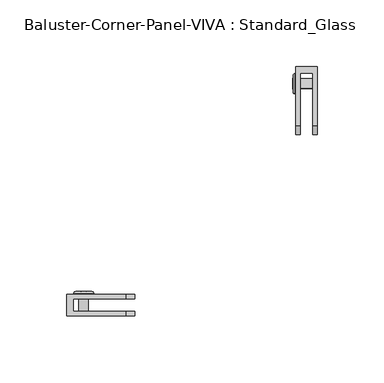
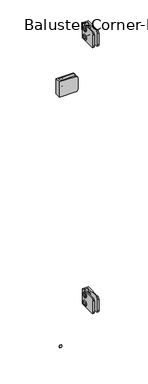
"""IFC4 building model written with IfcOpenShell, lengths in millimetres: railing geometry, Baluster-Corner-Panel-VIVA : Standard_Glass."""

from ifc_helpers import new_model, si_unit, point, frame, origin, place, context, project, spatial, polyline, circle_curve, ellipse_curve, trimmed, outline, extrude, source, transform, mapped, element, save
from ifc_brep_helpers import plane_surface, cylinder_surface, revolved_surface, advanced_brep


def baluster_corner_panel_viva_standard_glass_8e7ea86a(model_context):
    return source(origin(), model_context, "Body", "SolidModel", [
        extrude(outline(polyline([(137.9862695, 917.178125), (135.9393053, 913.6326791), (131.845377, 913.6326791), (129.7984129, 917.178125), (131.845377, 920.7235709), (135.9393053, 920.7235709), (137.9862695, 917.178125)])), frame((21.7024185, 0.0, 0.0), z_axis=(1.0, 0.0, 0.0), x_axis=(0.0, 1.0, 0.0)), (0.0, 0.0, 1.0), 1.4969696),
        advanced_brep(
        [(36.7665, 137.4377871, 917.178125), (36.7665, 130.3468953, 917.178125), (24.0665, 130.3468953, 917.178125), (24.0665, 137.4377871, 917.178125), (24.0665, 126.4845521, 917.178125), (24.0665, 141.3001303, 917.178125), (23.199388, 135.5484166, 917.178125), (23.199388, 132.2362658, 917.178125), (36.7665, 132.2362658, 917.178125), (36.7665, 135.5484166, 917.178125), (23.2316551, 141.3001303, 917.178125), (23.2316551, 126.4845521, 917.178125), (21.9503831, 127.7658241, 917.178125), (21.9503831, 140.0188582, 917.178125), (21.9503831, 129.5937456, 917.178125), (21.9503831, 138.1909367, 917.178125), (23.199388, 129.5937456, 917.178125), (23.199388, 138.1909367, 917.178125)],
        [
            (0, 1, circle_curve(frame((36.7665, 133.8923412, 917.178125), z_axis=(-1.0, 0.0, 0.0), x_axis=(0.0, -1.0, 0.0)), 3.5454459)),
            (1, 2),
            (2, 3, circle_curve(frame((24.0665, 133.8923412, 917.178125), z_axis=(1.0, 0.0, 0.0), x_axis=(0.0, -1.0, 0.0)), 3.5454459)),
            (3, 0),
            (1, 0, circle_curve(frame((36.7665, 133.8923412, 917.178125), z_axis=(-1.0, 0.0, 0.0), x_axis=(0.0, -1.0, 0.0)), 3.5454459)),
            (3, 2, circle_curve(frame((24.0665, 133.8923412, 917.178125), z_axis=(1.0, 0.0, 0.0), x_axis=(0.0, -1.0, 0.0)), 3.5454459)),
            (2, 4),
            (4, 5, circle_curve(frame((24.0665, 133.8923412, 917.178125), z_axis=(1.0, 0.0, 0.0), x_axis=(0.0, -1.0, 0.0)), 7.4077891)),
            (5, 3),
            (5, 4, circle_curve(frame((24.0665, 133.8923412, 917.178125), z_axis=(1.0, 0.0, 0.0), x_axis=(0.0, -1.0, 0.0)), 7.4077891)),
            (6, 7, circle_curve(frame((23.199388, 133.8923412, 917.178125), z_axis=(-1.0, 0.0, 0.0), x_axis=(0.0, -1.0, 0.0)), 1.6560754)),
            (7, 8),
            (8, 9, circle_curve(frame((36.7665, 133.8923412, 917.178125), z_axis=(1.0, 0.0, 0.0), x_axis=(0.0, -1.0, 0.0)), 1.6560754)),
            (9, 6),
            (7, 6, circle_curve(frame((23.199388, 133.8923412, 917.178125), z_axis=(-1.0, 0.0, 0.0), x_axis=(0.0, -1.0, 0.0)), 1.6560754)),
            (9, 8, circle_curve(frame((36.7665, 133.8923412, 917.178125), z_axis=(1.0, 0.0, 0.0), x_axis=(0.0, -1.0, 0.0)), 1.6560754)),
            (10, 11, circle_curve(frame((23.2316551, 133.8923412, 917.178125), z_axis=(-1.0, 0.0, 0.0), x_axis=(0.0, -1.0, 0.0)), 7.4077891)),
            (11, 12, circle_curve(frame((23.2316551, 127.7658241, 917.178125), z_axis=(0.0, 0.0, -1.0), x_axis=(0.0, -1.0, 0.0)), 1.281272)),
            (12, 13, circle_curve(frame((21.9503831, 133.8923412, 917.178125), z_axis=(1.0, 0.0, 0.0), x_axis=(0.0, -1.0, 0.0)), 6.1265171)),
            (13, 10, circle_curve(frame((23.2316551, 140.0188582, 917.178125), z_axis=(0.0, 0.0, -1.0), x_axis=(0.0, 1.0, 0.0)), 1.281272)),
            (11, 10, circle_curve(frame((23.2316551, 133.8923412, 917.178125), z_axis=(-1.0, 0.0, 0.0), x_axis=(0.0, -1.0, 0.0)), 7.4077891)),
            (13, 12, circle_curve(frame((21.9503831, 133.8923412, 917.178125), z_axis=(1.0, 0.0, 0.0), x_axis=(0.0, -1.0, 0.0)), 6.1265171)),
            (12, 14),
            (14, 15, circle_curve(frame((21.9503831, 133.8923412, 917.178125), z_axis=(1.0, 0.0, 0.0), x_axis=(0.0, -1.0, 0.0)), 4.2985955)),
            (15, 13),
            (15, 14, circle_curve(frame((21.9503831, 133.8923412, 917.178125), z_axis=(1.0, 0.0, 0.0), x_axis=(0.0, -1.0, 0.0)), 4.2985955)),
            (4, 11),
            (10, 5),
            (8, 1),
            (0, 9),
            (14, 16),
            (16, 17, circle_curve(frame((23.199388, 133.8923412, 917.178125), z_axis=(1.0, 0.0, 0.0), x_axis=(0.0, -1.0, 0.0)), 4.2985955)),
            (17, 15),
            (17, 16, circle_curve(frame((23.199388, 133.8923412, 917.178125), z_axis=(1.0, 0.0, 0.0), x_axis=(0.0, -1.0, 0.0)), 4.2985955)),
            (16, 7),
            (6, 17),
        ],
        [
            cylinder_surface(frame((27.5632331, 133.8923412, 917.178125), z_axis=(1.0, 0.0, 0.0), x_axis=(0.0, -1.0, 0.0)), 3.5454459),
            plane_surface(frame((24.0665, 133.8923412, 917.178125), z_axis=(1.0, 0.0, 0.0), x_axis=(0.0, -1.0, 0.0))),
            revolved_surface(polyline([(36.7665, 132.2362658, 917.178125), (23.199388, 132.2362658, 917.178125)]), (27.5632331, 133.8923412, 917.178125), (1.0, 0.0, 0.0)),
            revolved_surface(trimmed(ellipse_curve(frame((23.2316551, 127.7658241, 917.178125), z_axis=(0.0, 0.0, 1.0), x_axis=(0.0, -1.0, 0.0)), 1.281272, 1.281272), [point((21.9503831, 127.7658241, 917.178125))], [point((23.2316551, 126.4845521, 917.178125))], True, "CARTESIAN"), (27.5632331, 133.8923412, 917.178125), (1.0, 0.0, 0.0)),
            plane_surface(frame((21.9503831, 133.8923412, 917.178125), z_axis=(-1.0, 0.0, 0.0), x_axis=(0.0, -1.0, 0.0))),
            cylinder_surface(frame((27.5632331, 133.8923412, 917.178125), z_axis=(1.0, 0.0, 0.0), x_axis=(0.0, -1.0, 0.0)), 7.4077891),
            plane_surface(frame((36.7665, 133.8923412, 917.178125), z_axis=(1.0, 0.0, 0.0), x_axis=(0.0, -1.0, 0.0))),
            revolved_surface(polyline([(23.199388, 129.5937457, 917.178125), (21.9503831, 129.5937457, 917.178125)]), (27.5632331, 133.8923412, 917.178125), (1.0, 0.0, 0.0)),
            plane_surface(frame((23.199388, 133.8923412, 917.178125), z_axis=(-1.0, 0.0, 0.0), x_axis=(0.0, -1.0, 0.0))),
        ],
        [
            (0, [[1, 2, 3, 4]]),
            (0, [[5, -4, 6, -2]]),
            (1, [[-3, 7, 8, 9]]),
            (1, [[-6, -9, 10, -7]]),
            (2, [[11, 12, 13, 14]]),
            (2, [[15, -14, 16, -12]]),
            (3, [[17, 18, 19, 20]]),
            (3, [[21, -20, 22, -18]]),
            (4, [[-19, 23, 24, 25]]),
            (4, [[-22, -25, 26, -23]]),
            (5, [[-8, 27, -17, 28]]),
            (5, [[-10, -28, -21, -27]]),
            (6, [[-13, 29, -1, 30]]),
            (6, [[-16, -30, -5, -29]]),
            (7, [[-24, 31, 32, 33]]),
            (7, [[-26, -33, 34, -31]]),
            (8, [[-32, 35, -11, 36]]),
            (8, [[-34, -36, -15, -35]]),
        ],
    ),
        advanced_brep(
        [(36.7665, 137.4377871, 892.571875), (36.7665, 130.3468953, 892.571875), (24.0665, 130.3468953, 892.571875), (24.0665, 137.4377871, 892.571875), (24.0665, 126.4845521, 892.571875), (24.0665, 141.3001303, 892.571875), (23.199388, 135.5484166, 892.571875), (23.199388, 132.2362658, 892.571875), (36.7665, 132.2362658, 892.571875), (36.7665, 135.5484166, 892.571875), (23.2316551, 141.3001303, 892.571875), (23.2316551, 126.4845521, 892.571875), (21.9503831, 127.7658241, 892.571875), (21.9503831, 140.0188582, 892.571875), (21.9503831, 129.5937456, 892.571875), (21.9503831, 138.1909367, 892.571875), (23.199388, 129.5937456, 892.571875), (23.199388, 138.1909367, 892.571875)],
        [
            (0, 1, circle_curve(frame((36.7665, 133.8923412, 892.571875), z_axis=(-1.0, 0.0, 0.0), x_axis=(0.0, -1.0, 0.0)), 3.5454459)),
            (1, 2),
            (2, 3, circle_curve(frame((24.0665, 133.8923412, 892.571875), z_axis=(1.0, 0.0, 0.0), x_axis=(0.0, -1.0, 0.0)), 3.5454459)),
            (3, 0),
            (1, 0, circle_curve(frame((36.7665, 133.8923412, 892.571875), z_axis=(-1.0, 0.0, 0.0), x_axis=(0.0, -1.0, 0.0)), 3.5454459)),
            (3, 2, circle_curve(frame((24.0665, 133.8923412, 892.571875), z_axis=(1.0, 0.0, 0.0), x_axis=(0.0, -1.0, 0.0)), 3.5454459)),
            (2, 4),
            (4, 5, circle_curve(frame((24.0665, 133.8923412, 892.571875), z_axis=(1.0, 0.0, 0.0), x_axis=(0.0, -1.0, 0.0)), 7.4077891)),
            (5, 3),
            (5, 4, circle_curve(frame((24.0665, 133.8923412, 892.571875), z_axis=(1.0, 0.0, 0.0), x_axis=(0.0, -1.0, 0.0)), 7.4077891)),
            (6, 7, circle_curve(frame((23.199388, 133.8923412, 892.571875), z_axis=(-1.0, 0.0, 0.0), x_axis=(0.0, -1.0, 0.0)), 1.6560754)),
            (7, 8),
            (8, 9, circle_curve(frame((36.7665, 133.8923412, 892.571875), z_axis=(1.0, 0.0, 0.0), x_axis=(0.0, -1.0, 0.0)), 1.6560754)),
            (9, 6),
            (7, 6, circle_curve(frame((23.199388, 133.8923412, 892.571875), z_axis=(-1.0, 0.0, 0.0), x_axis=(0.0, -1.0, 0.0)), 1.6560754)),
            (9, 8, circle_curve(frame((36.7665, 133.8923412, 892.571875), z_axis=(1.0, 0.0, 0.0), x_axis=(0.0, -1.0, 0.0)), 1.6560754)),
            (10, 11, circle_curve(frame((23.2316551, 133.8923412, 892.571875), z_axis=(-1.0, 0.0, 0.0), x_axis=(0.0, -1.0, 0.0)), 7.4077891)),
            (11, 12, circle_curve(frame((23.2316551, 127.7658241, 892.571875), z_axis=(0.0, 0.0, -1.0), x_axis=(0.0, -1.0, 0.0)), 1.281272)),
            (12, 13, circle_curve(frame((21.9503831, 133.8923412, 892.571875), z_axis=(1.0, 0.0, 0.0), x_axis=(0.0, -1.0, 0.0)), 6.1265171)),
            (13, 10, circle_curve(frame((23.2316551, 140.0188582, 892.571875), z_axis=(0.0, 0.0, -1.0), x_axis=(0.0, 1.0, 0.0)), 1.281272)),
            (11, 10, circle_curve(frame((23.2316551, 133.8923412, 892.571875), z_axis=(-1.0, 0.0, 0.0), x_axis=(0.0, -1.0, 0.0)), 7.4077891)),
            (13, 12, circle_curve(frame((21.9503831, 133.8923412, 892.571875), z_axis=(1.0, 0.0, 0.0), x_axis=(0.0, -1.0, 0.0)), 6.1265171)),
            (12, 14),
            (14, 15, circle_curve(frame((21.9503831, 133.8923412, 892.571875), z_axis=(1.0, 0.0, 0.0), x_axis=(0.0, -1.0, 0.0)), 4.2985955)),
            (15, 13),
            (15, 14, circle_curve(frame((21.9503831, 133.8923412, 892.571875), z_axis=(1.0, 0.0, 0.0), x_axis=(0.0, -1.0, 0.0)), 4.2985955)),
            (8, 1),
            (0, 9),
            (4, 11),
            (10, 5),
            (14, 16),
            (16, 17, circle_curve(frame((23.199388, 133.8923412, 892.571875), z_axis=(1.0, 0.0, 0.0), x_axis=(0.0, -1.0, 0.0)), 4.2985955)),
            (17, 15),
            (17, 16, circle_curve(frame((23.199388, 133.8923412, 892.571875), z_axis=(1.0, 0.0, 0.0), x_axis=(0.0, -1.0, 0.0)), 4.2985955)),
            (16, 7),
            (6, 17),
        ],
        [
            cylinder_surface(frame((27.5632331, 133.8923412, 892.571875), z_axis=(1.0, 0.0, 0.0), x_axis=(0.0, -1.0, 0.0)), 3.5454459),
            plane_surface(frame((24.0665, 133.8923412, 892.571875), z_axis=(1.0, 0.0, 0.0), x_axis=(0.0, -1.0, 0.0))),
            revolved_surface(polyline([(36.7665, 132.2362658, 892.571875), (23.199388, 132.2362658, 892.571875)]), (27.5632331, 133.8923412, 892.571875), (1.0, 0.0, 0.0)),
            revolved_surface(trimmed(ellipse_curve(frame((23.2316551, 127.7658241, 892.571875), z_axis=(0.0, 0.0, 1.0), x_axis=(0.0, -1.0, 0.0)), 1.281272, 1.281272), [point((21.9503831, 127.7658241, 892.571875))], [point((23.2316551, 126.4845521, 892.571875))], True, "CARTESIAN"), (27.5632331, 133.8923412, 892.571875), (1.0, 0.0, 0.0)),
            plane_surface(frame((21.9503831, 133.8923412, 892.571875), z_axis=(-1.0, 0.0, 0.0), x_axis=(0.0, -1.0, 0.0))),
            plane_surface(frame((36.7665, 133.8923412, 892.571875), z_axis=(1.0, 0.0, 0.0), x_axis=(0.0, -1.0, 0.0))),
            cylinder_surface(frame((27.5632331, 133.8923412, 892.571875), z_axis=(1.0, 0.0, 0.0), x_axis=(0.0, -1.0, 0.0)), 7.4077891),
            revolved_surface(polyline([(23.199388, 129.5937457, 892.571875), (21.9503831, 129.5937457, 892.571875)]), (27.5632331, 133.8923412, 892.571875), (1.0, 0.0, 0.0)),
            plane_surface(frame((23.199388, 133.8923412, 892.571875), z_axis=(-1.0, 0.0, 0.0), x_axis=(0.0, -1.0, 0.0))),
        ],
        [
            (0, [[1, 2, 3, 4]]),
            (0, [[5, -4, 6, -2]]),
            (1, [[-3, 7, 8, 9]]),
            (1, [[-6, -9, 10, -7]]),
            (2, [[11, 12, 13, 14]]),
            (2, [[15, -14, 16, -12]]),
            (3, [[17, 18, 19, 20]]),
            (3, [[21, -20, 22, -18]]),
            (4, [[-19, 23, 24, 25]]),
            (4, [[-22, -25, 26, -23]]),
            (5, [[-13, 27, -1, 28]]),
            (5, [[-16, -28, -5, -27]]),
            (6, [[-8, 29, -17, 30]]),
            (6, [[-10, -30, -21, -29]]),
            (7, [[-24, 31, 32, 33]]),
            (7, [[-26, -33, 34, -31]]),
            (8, [[-32, 35, -11, 36]]),
            (8, [[-34, -36, -15, -35]]),
        ],
    ),
        extrude(outline(polyline([(137.9862695, 892.571875), (135.9393053, 889.0264291), (131.845377, 889.0264291), (129.7984129, 892.571875), (131.845377, 896.1173209), (135.9393053, 896.1173209), (137.9862695, 892.571875)])), frame((21.7024185, 0.0, 0.0), z_axis=(1.0, 0.0, 0.0), x_axis=(0.0, 1.0, 0.0)), (0.0, 0.0, 1.0), 1.4969696),
        advanced_brep(
        [(24.0665, 146.5256859, 927.1), (24.0665, 146.5256859, 882.65), (24.0665, 102.0756859, 882.65), (24.0665, 95.7256859, 889.0), (24.0665, 95.7256859, 920.75), (24.0665, 102.0756859, 927.1), (39.9415, 146.5256859, 927.1), (39.9415, 102.0756859, 927.1), (39.9415, 95.7256859, 920.75), (39.9415, 95.7256859, 889.0), (39.9415, 102.0756859, 882.65), (39.9415, 146.5256859, 882.65), (36.7665, 102.0756859, 882.65), (36.7665, 141.8076055, 882.65), (27.2415, 141.8076055, 882.65), (27.2415, 102.0756859, 882.65), (36.7665, 141.8076055, 927.1), (27.2415, 141.8076055, 927.1), (27.2415, 102.0756859, 927.1), (27.2415, 95.7256859, 920.75), (27.2415, 95.7256859, 889.0), (36.7665, 95.7256859, 889.0), (36.7665, 95.7256859, 920.75), (36.7665, 102.0756859, 927.1)],
        [
            (0, 1),
            (1, 2),
            (2, 3, circle_curve(frame((24.0665, 102.0756859, 889.0), z_axis=(-1.0, 0.0, 0.0), x_axis=(0.0, -1.0, 0.0)), 6.35)),
            (3, 4),
            (4, 5, circle_curve(frame((24.0665, 102.0756859, 920.75), z_axis=(-1.0, 0.0, 0.0), x_axis=(0.0, -1.0, 0.0)), 6.35)),
            (5, 0),
            (6, 7),
            (7, 8, circle_curve(frame((39.9415, 102.0756859, 920.75), z_axis=(1.0, 0.0, 0.0), x_axis=(0.0, -1.0, 0.0)), 6.35)),
            (8, 9),
            (9, 10, circle_curve(frame((39.9415, 102.0756859, 889.0), z_axis=(1.0, 0.0, 0.0), x_axis=(0.0, -1.0, 0.0)), 6.35)),
            (10, 11),
            (11, 6),
            (0, 6),
            (11, 1),
            (10, 12),
            (12, 13),
            (13, 14),
            (14, 15),
            (15, 2),
            (13, 16),
            (16, 17),
            (17, 14),
            (17, 18),
            (18, 19, circle_curve(frame((27.2415, 102.0756859, 920.75), z_axis=(1.0, 0.0, 0.0), x_axis=(0.0, -1.0, 0.0)), 6.35)),
            (19, 20),
            (20, 15, circle_curve(frame((27.2415, 102.0756859, 889.0), z_axis=(1.0, 0.0, 0.0), x_axis=(0.0, -1.0, 0.0)), 6.35)),
            (12, 21, circle_curve(frame((36.7665, 102.0756859, 889.0), z_axis=(-1.0, 0.0, 0.0), x_axis=(0.0, -1.0, 0.0)), 6.35)),
            (21, 22),
            (22, 23, circle_curve(frame((36.7665, 102.0756859, 920.75), z_axis=(-1.0, 0.0, 0.0), x_axis=(0.0, -1.0, 0.0)), 6.35)),
            (23, 16),
            (20, 3),
            (9, 21),
            (19, 4),
            (8, 22),
            (18, 5),
            (7, 23),
        ],
        [
            plane_surface(frame((24.0665, 146.5256859, 882.65), z_axis=(-1.0, 0.0, 0.0), x_axis=(0.0, 0.0, -1.0))),
            plane_surface(frame((39.9415, 146.5256859, 882.65), z_axis=(1.0, 0.0, 0.0), x_axis=(0.0, 0.0, 1.0))),
            plane_surface(frame((24.0665, 146.5256859, 927.1), z_axis=(0.0, 1.0, 0.0), x_axis=(1.0, 0.0, 0.0))),
            plane_surface(frame((24.0665, 146.5256859, 882.65), z_axis=(0.0, 0.0, -1.0), x_axis=(1.0, 0.0, 0.0))),
            plane_surface(frame((36.7665, 141.8076055, 939.8), z_axis=(0.0, -1.0, 0.0), x_axis=(0.0, 0.0, -1.0))),
            plane_surface(frame((27.2415, 141.8076055, 939.8), z_axis=(1.0, 0.0, 0.0), x_axis=(0.0, 0.0, -1.0))),
            plane_surface(frame((36.7665, 83.0256859, 939.8), z_axis=(-1.0, 0.0, 0.0), x_axis=(0.0, 0.0, -1.0))),
            cylinder_surface(frame((39.9415, 102.0756859, 889.0), z_axis=(-1.0, 0.0, 0.0), x_axis=(0.0, -1.0, 0.0)), 6.35),
            plane_surface(frame((24.0665, 95.7256859, 889.0), z_axis=(0.0, -1.0, 0.0), x_axis=(1.0, 0.0, 0.0))),
            cylinder_surface(frame((39.9415, 102.0756859, 920.75), z_axis=(-1.0, 0.0, 0.0), x_axis=(0.0, -1.0, 0.0)), 6.35),
            plane_surface(frame((24.0665, 102.0756859, 927.1), z_axis=(0.0, 0.0, 1.0), x_axis=(1.0, 0.0, 0.0))),
        ],
        [
            (0, [[1, 2, 3, 4, 5, 6]]),
            (1, [[7, 8, 9, 10, 11, 12]]),
            (2, [[-1, 13, -12, 14]]),
            (3, [[-2, -14, -11, 15, 16, 17, 18, 19]]),
            (4, [[20, 21, 22, -17]]),
            (5, [[-22, 23, 24, 25, 26, -18]]),
            (6, [[-20, -16, 27, 28, 29, 30]]),
            (7, [[-3, -19, -26, 31]]),
            (7, [[-10, 32, -27, -15]]),
            (8, [[-4, -31, -25, 33]]),
            (8, [[-9, 34, -28, -32]]),
            (9, [[-5, -33, -24, 35]]),
            (9, [[-8, 36, -29, -34]]),
            (10, [[-6, -35, -23, -21, -30, -36, -7, -13]]),
        ],
    ),
        extrude(outline(polyline([(137.9862695, 138.7358896), (135.9393053, 135.1904437), (131.845377, 135.1904437), (129.7984129, 138.7358896), (131.845377, 142.2813355), (135.9393053, 142.2813355), (137.9862695, 138.7358896)])), frame((21.7024185, 0.0, 0.0), z_axis=(1.0, 0.0, 0.0), x_axis=(0.0, 1.0, 0.0)), (0.0, 0.0, 1.0), 1.4969696),
        advanced_brep(
        [(36.7665, 137.4377871, 138.7358896), (36.7665, 130.3468953, 138.7358896), (24.0665, 130.3468953, 138.7358896), (24.0665, 137.4377871, 138.7358896), (24.0665, 126.4845521, 138.7358896), (24.0665, 141.3001303, 138.7358896), (23.199388, 135.5484166, 138.7358896), (23.199388, 132.2362658, 138.7358896), (36.7665, 132.2362658, 138.7358896), (36.7665, 135.5484166, 138.7358896), (23.2316551, 141.3001303, 138.7358896), (23.2316551, 126.4845521, 138.7358896), (21.9503831, 127.7658241, 138.7358896), (21.9503831, 140.0188582, 138.7358896), (21.9503831, 129.5937456, 138.7358896), (21.9503831, 138.1909367, 138.7358896), (23.199388, 129.5937456, 138.7358896), (23.199388, 138.1909367, 138.7358896)],
        [
            (0, 1, circle_curve(frame((36.7665, 133.8923412, 138.7358896), z_axis=(-1.0, 0.0, 0.0), x_axis=(0.0, -1.0, 0.0)), 3.5454459)),
            (1, 2),
            (2, 3, circle_curve(frame((24.0665, 133.8923412, 138.7358896), z_axis=(1.0, 0.0, 0.0), x_axis=(0.0, -1.0, 0.0)), 3.5454459)),
            (3, 0),
            (1, 0, circle_curve(frame((36.7665, 133.8923412, 138.7358896), z_axis=(-1.0, 0.0, 0.0), x_axis=(0.0, -1.0, 0.0)), 3.5454459)),
            (3, 2, circle_curve(frame((24.0665, 133.8923412, 138.7358896), z_axis=(1.0, 0.0, 0.0), x_axis=(0.0, -1.0, 0.0)), 3.5454459)),
            (2, 4),
            (4, 5, circle_curve(frame((24.0665, 133.8923412, 138.7358896), z_axis=(1.0, 0.0, 0.0), x_axis=(0.0, -1.0, 0.0)), 7.4077891)),
            (5, 3),
            (5, 4, circle_curve(frame((24.0665, 133.8923412, 138.7358896), z_axis=(1.0, 0.0, 0.0), x_axis=(0.0, -1.0, 0.0)), 7.4077891)),
            (6, 7, circle_curve(frame((23.199388, 133.8923412, 138.7358896), z_axis=(-1.0, 0.0, 0.0), x_axis=(0.0, -1.0, 0.0)), 1.6560754)),
            (7, 8),
            (8, 9, circle_curve(frame((36.7665, 133.8923412, 138.7358896), z_axis=(1.0, 0.0, 0.0), x_axis=(0.0, -1.0, 0.0)), 1.6560754)),
            (9, 6),
            (7, 6, circle_curve(frame((23.199388, 133.8923412, 138.7358896), z_axis=(-1.0, 0.0, 0.0), x_axis=(0.0, -1.0, 0.0)), 1.6560754)),
            (9, 8, circle_curve(frame((36.7665, 133.8923412, 138.7358896), z_axis=(1.0, 0.0, 0.0), x_axis=(0.0, -1.0, 0.0)), 1.6560754)),
            (10, 11, circle_curve(frame((23.2316551, 133.8923412, 138.7358896), z_axis=(-1.0, 0.0, 0.0), x_axis=(0.0, -1.0, 0.0)), 7.4077891)),
            (11, 12, circle_curve(frame((23.2316551, 127.7658241, 138.7358896), z_axis=(0.0, 0.0, -1.0), x_axis=(0.0, -1.0, 0.0)), 1.281272)),
            (12, 13, circle_curve(frame((21.9503831, 133.8923412, 138.7358896), z_axis=(1.0, 0.0, 0.0), x_axis=(0.0, -1.0, 0.0)), 6.1265171)),
            (13, 10, circle_curve(frame((23.2316551, 140.0188582, 138.7358896), z_axis=(0.0, 0.0, -1.0), x_axis=(0.0, 1.0, 0.0)), 1.281272)),
            (11, 10, circle_curve(frame((23.2316551, 133.8923412, 138.7358896), z_axis=(-1.0, 0.0, 0.0), x_axis=(0.0, -1.0, 0.0)), 7.4077891)),
            (13, 12, circle_curve(frame((21.9503831, 133.8923412, 138.7358896), z_axis=(1.0, 0.0, 0.0), x_axis=(0.0, -1.0, 0.0)), 6.1265171)),
            (12, 14),
            (14, 15, circle_curve(frame((21.9503831, 133.8923412, 138.7358896), z_axis=(1.0, 0.0, 0.0), x_axis=(0.0, -1.0, 0.0)), 4.2985955)),
            (15, 13),
            (15, 14, circle_curve(frame((21.9503831, 133.8923412, 138.7358896), z_axis=(1.0, 0.0, 0.0), x_axis=(0.0, -1.0, 0.0)), 4.2985955)),
            (4, 11),
            (10, 5),
            (8, 1),
            (0, 9),
            (14, 16),
            (16, 17, circle_curve(frame((23.199388, 133.8923412, 138.7358896), z_axis=(1.0, 0.0, 0.0), x_axis=(0.0, -1.0, 0.0)), 4.2985955)),
            (17, 15),
            (17, 16, circle_curve(frame((23.199388, 133.8923412, 138.7358896), z_axis=(1.0, 0.0, 0.0), x_axis=(0.0, -1.0, 0.0)), 4.2985955)),
            (16, 7),
            (6, 17),
        ],
        [
            cylinder_surface(frame((27.5632331, 133.8923412, 138.7358896), z_axis=(1.0, 0.0, 0.0), x_axis=(0.0, -1.0, 0.0)), 3.5454459),
            plane_surface(frame((24.0665, 133.8923412, 138.7358896), z_axis=(1.0, 0.0, 0.0), x_axis=(0.0, -1.0, 0.0))),
            revolved_surface(polyline([(36.7665, 132.2362658, 138.7358896), (23.199388, 132.2362658, 138.7358896)]), (27.5632331, 133.8923412, 138.7358896), (1.0, 0.0, 0.0)),
            revolved_surface(trimmed(ellipse_curve(frame((23.2316551, 127.7658241, 138.7358896), z_axis=(0.0, 0.0, 1.0), x_axis=(0.0, -1.0, 0.0)), 1.281272, 1.281272), [point((21.9503831, 127.7658241, 138.7358896))], [point((23.2316551, 126.4845521, 138.7358896))], True, "CARTESIAN"), (27.5632331, 133.8923412, 138.7358896), (1.0, 0.0, 0.0)),
            plane_surface(frame((21.9503831, 133.8923412, 138.7358896), z_axis=(-1.0, 0.0, 0.0), x_axis=(0.0, -1.0, 0.0))),
            cylinder_surface(frame((27.5632331, 133.8923412, 138.7358896), z_axis=(1.0, 0.0, 0.0), x_axis=(0.0, -1.0, 0.0)), 7.4077891),
            plane_surface(frame((36.7665, 133.8923412, 138.7358896), z_axis=(1.0, 0.0, 0.0), x_axis=(0.0, -1.0, 0.0))),
            revolved_surface(polyline([(23.199388, 129.5937457, 138.7358896), (21.9503831, 129.5937457, 138.7358896)]), (27.5632331, 133.8923412, 138.7358896), (1.0, 0.0, 0.0)),
            plane_surface(frame((23.199388, 133.8923412, 138.7358896), z_axis=(-1.0, 0.0, 0.0), x_axis=(0.0, -1.0, 0.0))),
        ],
        [
            (0, [[1, 2, 3, 4]]),
            (0, [[5, -4, 6, -2]]),
            (1, [[-3, 7, 8, 9]]),
            (1, [[-6, -9, 10, -7]]),
            (2, [[11, 12, 13, 14]]),
            (2, [[15, -14, 16, -12]]),
            (3, [[17, 18, 19, 20]]),
            (3, [[21, -20, 22, -18]]),
            (4, [[-19, 23, 24, 25]]),
            (4, [[-22, -25, 26, -23]]),
            (5, [[-8, 27, -17, 28]]),
            (5, [[-10, -28, -21, -27]]),
            (6, [[-13, 29, -1, 30]]),
            (6, [[-16, -30, -5, -29]]),
            (7, [[-24, 31, 32, 33]]),
            (7, [[-26, -33, 34, -31]]),
            (8, [[-32, 35, -11, 36]]),
            (8, [[-34, -36, -15, -35]]),
        ],
    ),
        advanced_brep(
        [(36.7665, 137.4377871, 114.1296396), (36.7665, 130.3468953, 114.1296396), (24.0665, 130.3468953, 114.1296396), (24.0665, 137.4377871, 114.1296396), (24.0665, 126.4845521, 114.1296396), (24.0665, 141.3001303, 114.1296396), (23.199388, 135.5484166, 114.1296396), (23.199388, 132.2362658, 114.1296396), (36.7665, 132.2362658, 114.1296396), (36.7665, 135.5484166, 114.1296396), (23.2316551, 141.3001303, 114.1296396), (23.2316551, 126.4845521, 114.1296396), (21.9503831, 127.7658241, 114.1296396), (21.9503831, 140.0188582, 114.1296396), (21.9503831, 129.5937456, 114.1296396), (21.9503831, 138.1909367, 114.1296396), (23.199388, 129.5937456, 114.1296396), (23.199388, 138.1909367, 114.1296396)],
        [
            (0, 1, circle_curve(frame((36.7665, 133.8923412, 114.1296396), z_axis=(-1.0, 0.0, 0.0), x_axis=(0.0, -1.0, 0.0)), 3.5454459)),
            (1, 2),
            (2, 3, circle_curve(frame((24.0665, 133.8923412, 114.1296396), z_axis=(1.0, 0.0, 0.0), x_axis=(0.0, -1.0, 0.0)), 3.5454459)),
            (3, 0),
            (1, 0, circle_curve(frame((36.7665, 133.8923412, 114.1296396), z_axis=(-1.0, 0.0, 0.0), x_axis=(0.0, -1.0, 0.0)), 3.5454459)),
            (3, 2, circle_curve(frame((24.0665, 133.8923412, 114.1296396), z_axis=(1.0, 0.0, 0.0), x_axis=(0.0, -1.0, 0.0)), 3.5454459)),
            (2, 4),
            (4, 5, circle_curve(frame((24.0665, 133.8923412, 114.1296396), z_axis=(1.0, 0.0, 0.0), x_axis=(0.0, -1.0, 0.0)), 7.4077891)),
            (5, 3),
            (5, 4, circle_curve(frame((24.0665, 133.8923412, 114.1296396), z_axis=(1.0, 0.0, 0.0), x_axis=(0.0, -1.0, 0.0)), 7.4077891)),
            (6, 7, circle_curve(frame((23.199388, 133.8923412, 114.1296396), z_axis=(-1.0, 0.0, 0.0), x_axis=(0.0, -1.0, 0.0)), 1.6560754)),
            (7, 8),
            (8, 9, circle_curve(frame((36.7665, 133.8923412, 114.1296396), z_axis=(1.0, 0.0, 0.0), x_axis=(0.0, -1.0, 0.0)), 1.6560754)),
            (9, 6),
            (7, 6, circle_curve(frame((23.199388, 133.8923412, 114.1296396), z_axis=(-1.0, 0.0, 0.0), x_axis=(0.0, -1.0, 0.0)), 1.6560754)),
            (9, 8, circle_curve(frame((36.7665, 133.8923412, 114.1296396), z_axis=(1.0, 0.0, 0.0), x_axis=(0.0, -1.0, 0.0)), 1.6560754)),
            (10, 11, circle_curve(frame((23.2316551, 133.8923412, 114.1296396), z_axis=(-1.0, 0.0, 0.0), x_axis=(0.0, -1.0, 0.0)), 7.4077891)),
            (11, 12, circle_curve(frame((23.2316551, 127.7658241, 114.1296396), z_axis=(0.0, 0.0, -1.0), x_axis=(0.0, -1.0, 0.0)), 1.281272)),
            (12, 13, circle_curve(frame((21.9503831, 133.8923412, 114.1296396), z_axis=(1.0, 0.0, 0.0), x_axis=(0.0, -1.0, 0.0)), 6.1265171)),
            (13, 10, circle_curve(frame((23.2316551, 140.0188582, 114.1296396), z_axis=(0.0, 0.0, -1.0), x_axis=(0.0, 1.0, 0.0)), 1.281272)),
            (11, 10, circle_curve(frame((23.2316551, 133.8923412, 114.1296396), z_axis=(-1.0, 0.0, 0.0), x_axis=(0.0, -1.0, 0.0)), 7.4077891)),
            (13, 12, circle_curve(frame((21.9503831, 133.8923412, 114.1296396), z_axis=(1.0, 0.0, 0.0), x_axis=(0.0, -1.0, 0.0)), 6.1265171)),
            (12, 14),
            (14, 15, circle_curve(frame((21.9503831, 133.8923412, 114.1296396), z_axis=(1.0, 0.0, 0.0), x_axis=(0.0, -1.0, 0.0)), 4.2985955)),
            (15, 13),
            (15, 14, circle_curve(frame((21.9503831, 133.8923412, 114.1296396), z_axis=(1.0, 0.0, 0.0), x_axis=(0.0, -1.0, 0.0)), 4.2985955)),
            (8, 1),
            (0, 9),
            (4, 11),
            (10, 5),
            (14, 16),
            (16, 17, circle_curve(frame((23.199388, 133.8923412, 114.1296396), z_axis=(1.0, 0.0, 0.0), x_axis=(0.0, -1.0, 0.0)), 4.2985955)),
            (17, 15),
            (17, 16, circle_curve(frame((23.199388, 133.8923412, 114.1296396), z_axis=(1.0, 0.0, 0.0), x_axis=(0.0, -1.0, 0.0)), 4.2985955)),
            (16, 7),
            (6, 17),
        ],
        [
            cylinder_surface(frame((27.5632331, 133.8923412, 114.1296396), z_axis=(1.0, 0.0, 0.0), x_axis=(0.0, -1.0, 0.0)), 3.5454459),
            plane_surface(frame((24.0665, 133.8923412, 114.1296396), z_axis=(1.0, 0.0, 0.0), x_axis=(0.0, -1.0, 0.0))),
            revolved_surface(polyline([(36.7665, 132.2362658, 114.1296396), (23.199388, 132.2362658, 114.1296396)]), (27.5632331, 133.8923412, 114.1296396), (1.0, 0.0, 0.0)),
            revolved_surface(trimmed(ellipse_curve(frame((23.2316551, 127.7658241, 114.1296396), z_axis=(0.0, 0.0, 1.0), x_axis=(0.0, -1.0, 0.0)), 1.281272, 1.281272), [point((21.9503831, 127.7658241, 114.1296396))], [point((23.2316551, 126.4845521, 114.1296396))], True, "CARTESIAN"), (27.5632331, 133.8923412, 114.1296396), (1.0, 0.0, 0.0)),
            plane_surface(frame((21.9503831, 133.8923412, 114.1296396), z_axis=(-1.0, 0.0, 0.0), x_axis=(0.0, -1.0, 0.0))),
            plane_surface(frame((36.7665, 133.8923412, 114.1296396), z_axis=(1.0, 0.0, 0.0), x_axis=(0.0, -1.0, 0.0))),
            cylinder_surface(frame((27.5632331, 133.8923412, 114.1296396), z_axis=(1.0, 0.0, 0.0), x_axis=(0.0, -1.0, 0.0)), 7.4077891),
            revolved_surface(polyline([(23.199388, 129.5937457, 114.1296396), (21.9503831, 129.5937457, 114.1296396)]), (27.5632331, 133.8923412, 114.1296396), (1.0, 0.0, 0.0)),
            plane_surface(frame((23.199388, 133.8923412, 114.1296396), z_axis=(-1.0, 0.0, 0.0), x_axis=(0.0, -1.0, 0.0))),
        ],
        [
            (0, [[1, 2, 3, 4]]),
            (0, [[5, -4, 6, -2]]),
            (1, [[-3, 7, 8, 9]]),
            (1, [[-6, -9, 10, -7]]),
            (2, [[11, 12, 13, 14]]),
            (2, [[15, -14, 16, -12]]),
            (3, [[17, 18, 19, 20]]),
            (3, [[21, -20, 22, -18]]),
            (4, [[-19, 23, 24, 25]]),
            (4, [[-22, -25, 26, -23]]),
            (5, [[-13, 27, -1, 28]]),
            (5, [[-16, -28, -5, -27]]),
            (6, [[-8, 29, -17, 30]]),
            (6, [[-10, -30, -21, -29]]),
            (7, [[-24, 31, 32, 33]]),
            (7, [[-26, -33, 34, -31]]),
            (8, [[-32, 35, -11, 36]]),
            (8, [[-34, -36, -15, -35]]),
        ],
    ),
        extrude(outline(polyline([(137.9862695, 114.1296396), (135.9393053, 110.5841937), (131.845377, 110.5841937), (129.7984129, 114.1296396), (131.845377, 117.6750855), (135.9393053, 117.6750855), (137.9862695, 114.1296396)])), frame((21.7024185, 0.0, 0.0), z_axis=(1.0, 0.0, 0.0), x_axis=(0.0, 1.0, 0.0)), (0.0, 0.0, 1.0), 1.4969696),
        advanced_brep(
        [(24.0665, 146.5256859, 148.6577646), (24.0665, 146.5256859, 104.2077646), (24.0665, 102.0756859, 104.2077646), (24.0665, 95.7256859, 110.5577646), (24.0665, 95.7256859, 142.3077646), (24.0665, 102.0756859, 148.6577646), (39.9415, 146.5256859, 148.6577646), (39.9415, 102.0756859, 148.6577646), (39.9415, 95.7256859, 142.3077646), (39.9415, 95.7256859, 110.5577646), (39.9415, 102.0756859, 104.2077646), (39.9415, 146.5256859, 104.2077646), (36.7665, 102.0756859, 104.2077646), (36.7665, 141.8076055, 104.2077646), (27.2415, 141.8076055, 104.2077646), (27.2415, 102.0756859, 104.2077646), (36.7665, 141.8076055, 148.6577646), (27.2415, 141.8076055, 148.6577646), (27.2415, 102.0756859, 148.6577646), (27.2415, 95.7256859, 142.3077646), (27.2415, 95.7256859, 110.5577646), (36.7665, 95.7256859, 110.5577646), (36.7665, 95.7256859, 142.3077646), (36.7665, 102.0756859, 148.6577646)],
        [
            (0, 1),
            (1, 2),
            (2, 3, circle_curve(frame((24.0665, 102.0756859, 110.5577646), z_axis=(-1.0, 0.0, 0.0), x_axis=(0.0, -1.0, 0.0)), 6.35)),
            (3, 4),
            (4, 5, circle_curve(frame((24.0665, 102.0756859, 142.3077646), z_axis=(-1.0, 0.0, 0.0), x_axis=(0.0, -1.0, 0.0)), 6.35)),
            (5, 0),
            (6, 7),
            (7, 8, circle_curve(frame((39.9415, 102.0756859, 142.3077646), z_axis=(1.0, 0.0, 0.0), x_axis=(0.0, -1.0, 0.0)), 6.35)),
            (8, 9),
            (9, 10, circle_curve(frame((39.9415, 102.0756859, 110.5577646), z_axis=(1.0, 0.0, 0.0), x_axis=(0.0, -1.0, 0.0)), 6.35)),
            (10, 11),
            (11, 6),
            (0, 6),
            (11, 1),
            (10, 12),
            (12, 13),
            (13, 14),
            (14, 15),
            (15, 2),
            (13, 16),
            (16, 17),
            (17, 14),
            (17, 18),
            (18, 19, circle_curve(frame((27.2415, 102.0756859, 142.3077646), z_axis=(1.0, 0.0, 0.0), x_axis=(0.0, -1.0, 0.0)), 6.35)),
            (19, 20),
            (20, 15, circle_curve(frame((27.2415, 102.0756859, 110.5577646), z_axis=(1.0, 0.0, 0.0), x_axis=(0.0, -1.0, 0.0)), 6.35)),
            (12, 21, circle_curve(frame((36.7665, 102.0756859, 110.5577646), z_axis=(-1.0, 0.0, 0.0), x_axis=(0.0, -1.0, 0.0)), 6.35)),
            (21, 22),
            (22, 23, circle_curve(frame((36.7665, 102.0756859, 142.3077646), z_axis=(-1.0, 0.0, 0.0), x_axis=(0.0, -1.0, 0.0)), 6.35)),
            (23, 16),
            (20, 3),
            (9, 21),
            (19, 4),
            (8, 22),
            (18, 5),
            (7, 23),
        ],
        [
            plane_surface(frame((24.0665, 146.5256859, 104.2077646), z_axis=(-1.0, 0.0, 0.0), x_axis=(0.0, 0.0, -1.0))),
            plane_surface(frame((39.9415, 146.5256859, 104.2077646), z_axis=(1.0, 0.0, 0.0), x_axis=(0.0, 0.0, 1.0))),
            plane_surface(frame((24.0665, 146.5256859, 148.6577646), z_axis=(0.0, 1.0, 0.0), x_axis=(1.0, 0.0, 0.0))),
            plane_surface(frame((24.0665, 146.5256859, 104.2077646), z_axis=(0.0, 0.0, -1.0), x_axis=(1.0, 0.0, 0.0))),
            plane_surface(frame((36.7665, 141.8076055, 161.3577646), z_axis=(0.0, -1.0, 0.0), x_axis=(0.0, 0.0, -1.0))),
            plane_surface(frame((27.2415, 141.8076055, 161.3577646), z_axis=(1.0, 0.0, 0.0), x_axis=(0.0, 0.0, -1.0))),
            plane_surface(frame((36.7665, 83.0256859, 161.3577646), z_axis=(-1.0, 0.0, 0.0), x_axis=(0.0, 0.0, -1.0))),
            cylinder_surface(frame((39.9415, 102.0756859, 110.5577646), z_axis=(-1.0, 0.0, 0.0), x_axis=(0.0, -1.0, 0.0)), 6.35),
            plane_surface(frame((24.0665, 95.7256859, 110.5577646), z_axis=(0.0, -1.0, 0.0), x_axis=(1.0, 0.0, 0.0))),
            cylinder_surface(frame((39.9415, 102.0756859, 142.3077646), z_axis=(-1.0, 0.0, 0.0), x_axis=(0.0, -1.0, 0.0)), 6.35),
            plane_surface(frame((24.0665, 102.0756859, 148.6577646), z_axis=(0.0, 0.0, 1.0), x_axis=(1.0, 0.0, 0.0))),
        ],
        [
            (0, [[1, 2, 3, 4, 5, 6]]),
            (1, [[7, 8, 9, 10, 11, 12]]),
            (2, [[-1, 13, -12, 14]]),
            (3, [[-2, -14, -11, 15, 16, 17, 18, 19]]),
            (4, [[20, 21, 22, -17]]),
            (5, [[-22, 23, 24, 25, 26, -18]]),
            (6, [[-20, -16, 27, 28, 29, 30]]),
            (7, [[-3, -19, -26, 31]]),
            (7, [[-10, 32, -27, -15]]),
            (8, [[-4, -31, -25, 33]]),
            (8, [[-9, 34, -28, -32]]),
            (9, [[-5, -33, -24, 35]]),
            (9, [[-8, 36, -29, -34]]),
            (10, [[-6, -35, -23, -21, -30, -36, -7, -13]]),
        ],
    ),
        extrude(outline(polyline([(917.178125, -138.8419447), (913.6326791, -136.7949806), (913.6326791, -132.7010523), (917.178125, -130.6540881), (920.7235709, -132.7010523), (920.7235709, -136.7949806), (917.178125, -138.8419447)])), frame((0.0, -23.199388, 0.0), z_axis=(0.0, 1.0, 0.0), x_axis=(0.0, 0.0, 1.0)), (0.0, 0.0, 1.0), 1.4969696),
        advanced_brep(
        [(-138.2934624, -36.7665, 917.178125), (-138.2934624, -24.0665, 917.178125), (-131.2025705, -24.0665, 917.178125), (-131.2025705, -36.7665, 917.178125), (-142.1558055, -24.0665, 917.178125), (-127.3402274, -24.0665, 917.178125), (-136.4040918, -23.199388, 917.178125), (-136.4040918, -36.7665, 917.178125), (-133.0919411, -36.7665, 917.178125), (-133.0919411, -23.199388, 917.178125), (-142.1558055, -23.2316551, 917.178125), (-140.8745335, -21.9503831, 917.178125), (-128.6214994, -21.9503831, 917.178125), (-127.3402274, -23.2316551, 917.178125), (-139.046612, -21.9503831, 917.178125), (-130.4494209, -21.9503831, 917.178125), (-139.046612, -23.199388, 917.178125), (-130.4494209, -23.199388, 917.178125)],
        [
            (0, 1),
            (1, 2, circle_curve(frame((-134.7480164, -24.0665, 917.178125), z_axis=(0.0, -1.0, 0.0), x_axis=(1.0, 0.0, 0.0)), 3.5454459)),
            (2, 3),
            (3, 0, circle_curve(frame((-134.7480164, -36.7665, 917.178125), z_axis=(0.0, 1.0, 0.0), x_axis=(1.0, 0.0, 0.0)), 3.5454459)),
            (2, 1, circle_curve(frame((-134.7480164, -24.0665, 917.178125), z_axis=(0.0, -1.0, 0.0), x_axis=(1.0, 0.0, 0.0)), 3.5454459)),
            (0, 3, circle_curve(frame((-134.7480164, -36.7665, 917.178125), z_axis=(0.0, 1.0, 0.0), x_axis=(1.0, 0.0, 0.0)), 3.5454459)),
            (1, 4),
            (4, 5, circle_curve(frame((-134.7480164, -24.0665, 917.178125), z_axis=(0.0, -1.0, 0.0), x_axis=(1.0, 0.0, 0.0)), 7.4077891)),
            (5, 2),
            (5, 4, circle_curve(frame((-134.7480164, -24.0665, 917.178125), z_axis=(0.0, -1.0, 0.0), x_axis=(1.0, 0.0, 0.0)), 7.4077891)),
            (6, 7),
            (7, 8, circle_curve(frame((-134.7480164, -36.7665, 917.178125), z_axis=(0.0, -1.0, 0.0), x_axis=(1.0, 0.0, 0.0)), 1.6560754)),
            (8, 9),
            (9, 6, circle_curve(frame((-134.7480164, -23.199388, 917.178125), z_axis=(0.0, 1.0, 0.0), x_axis=(1.0, 0.0, 0.0)), 1.6560754)),
            (8, 7, circle_curve(frame((-134.7480164, -36.7665, 917.178125), z_axis=(0.0, -1.0, 0.0), x_axis=(1.0, 0.0, 0.0)), 1.6560754)),
            (6, 9, circle_curve(frame((-134.7480164, -23.199388, 917.178125), z_axis=(0.0, 1.0, 0.0), x_axis=(1.0, 0.0, 0.0)), 1.6560754)),
            (10, 11, circle_curve(frame((-140.8745335, -23.2316551, 917.178125), z_axis=(0.0, 0.0, -1.0), x_axis=(-1.0, 0.0, 0.0)), 1.281272)),
            (11, 12, circle_curve(frame((-134.7480164, -21.9503831, 917.178125), z_axis=(0.0, -1.0, 0.0), x_axis=(1.0, 0.0, 0.0)), 6.1265171)),
            (12, 13, circle_curve(frame((-128.6214994, -23.2316551, 917.178125), z_axis=(0.0, 0.0, -1.0), x_axis=(1.0, 0.0, 0.0)), 1.281272)),
            (13, 10, circle_curve(frame((-134.7480164, -23.2316551, 917.178125), z_axis=(0.0, 1.0, 0.0), x_axis=(1.0, 0.0, 0.0)), 7.4077891)),
            (12, 11, circle_curve(frame((-134.7480164, -21.9503831, 917.178125), z_axis=(0.0, -1.0, 0.0), x_axis=(1.0, 0.0, 0.0)), 6.1265171)),
            (10, 13, circle_curve(frame((-134.7480164, -23.2316551, 917.178125), z_axis=(0.0, 1.0, 0.0), x_axis=(1.0, 0.0, 0.0)), 7.4077891)),
            (11, 14),
            (14, 15, circle_curve(frame((-134.7480164, -21.9503831, 917.178125), z_axis=(0.0, -1.0, 0.0), x_axis=(1.0, 0.0, 0.0)), 4.2985955)),
            (15, 12),
            (15, 14, circle_curve(frame((-134.7480164, -21.9503831, 917.178125), z_axis=(0.0, -1.0, 0.0), x_axis=(1.0, 0.0, 0.0)), 4.2985955)),
            (4, 10),
            (13, 5),
            (7, 0),
            (3, 8),
            (14, 16),
            (16, 17, circle_curve(frame((-134.7480164, -23.199388, 917.178125), z_axis=(0.0, -1.0, 0.0), x_axis=(1.0, 0.0, 0.0)), 4.2985955)),
            (17, 15),
            (17, 16, circle_curve(frame((-134.7480164, -23.199388, 917.178125), z_axis=(0.0, -1.0, 0.0), x_axis=(1.0, 0.0, 0.0)), 4.2985955)),
            (16, 6),
            (9, 17),
        ],
        [
            cylinder_surface(frame((-134.7480164, -27.5632331, 917.178125), z_axis=(0.0, -1.0, 0.0), x_axis=(1.0, 0.0, 0.0)), 3.5454459),
            plane_surface(frame((-134.7480164, -24.0665, 917.178125), z_axis=(0.0, -1.0, 0.0), x_axis=(1.0, 0.0, 0.0))),
            revolved_surface(polyline([(-133.09194100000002, -36.7665, 917.178125), (-133.09194100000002, -23.199388, 917.178125)]), (-134.7480164, -27.5632331, 917.178125), (0.0, -1.0, 0.0)),
            revolved_surface(trimmed(ellipse_curve(frame((-128.6214994, -23.2316551, 917.178125), z_axis=(0.0, 0.0, -1.0), x_axis=(1.0, 0.0, 0.0)), 1.281272, 1.281272), [point((-128.6214994, -21.9503831, 917.178125))], [point((-127.3402274, -23.2316551, 917.178125))], True, "CARTESIAN"), (-134.7480164, -27.5632331, 917.178125), (0.0, -1.0, 0.0)),
            plane_surface(frame((-134.7480164, -21.9503831, 917.178125), z_axis=(0.0, 1.0, 0.0), x_axis=(1.0, 0.0, 0.0))),
            cylinder_surface(frame((-134.7480164, -27.5632331, 917.178125), z_axis=(0.0, -1.0, 0.0), x_axis=(1.0, 0.0, 0.0)), 7.4077891),
            plane_surface(frame((-134.7480164, -36.7665, 917.178125), z_axis=(0.0, -1.0, 0.0), x_axis=(1.0, 0.0, 0.0))),
            revolved_surface(polyline([(-130.4494209, -23.199388, 917.178125), (-130.4494209, -21.9503831, 917.178125)]), (-134.7480164, -27.5632331, 917.178125), (0.0, -1.0, 0.0)),
            plane_surface(frame((-134.7480164, -23.199388, 917.178125), z_axis=(0.0, 1.0, 0.0), x_axis=(1.0, 0.0, 0.0))),
        ],
        [
            (0, [[1, 2, 3, 4]]),
            (0, [[-3, 5, -1, 6]]),
            (1, [[7, 8, 9, -2]]),
            (1, [[-9, 10, -7, -5]]),
            (2, [[11, 12, 13, 14]]),
            (2, [[-13, 15, -11, 16]]),
            (3, [[17, 18, 19, 20]]),
            (3, [[-19, 21, -17, 22]]),
            (4, [[23, 24, 25, -18]]),
            (4, [[-25, 26, -23, -21]]),
            (5, [[27, -20, 28, -8]]),
            (5, [[-28, -22, -27, -10]]),
            (6, [[29, -4, 30, -12]]),
            (6, [[-30, -6, -29, -15]]),
            (7, [[31, 32, 33, -24]]),
            (7, [[-33, 34, -31, -26]]),
            (8, [[35, -14, 36, -32]]),
            (8, [[-36, -16, -35, -34]]),
        ],
    ),
        advanced_brep(
        [(-138.2934624, -36.7665, 892.571875), (-138.2934624, -24.0665, 892.571875), (-131.2025705, -24.0665, 892.571875), (-131.2025705, -36.7665, 892.571875), (-142.1558055, -24.0665, 892.571875), (-127.3402274, -24.0665, 892.571875), (-136.4040918, -23.199388, 892.571875), (-136.4040918, -36.7665, 892.571875), (-133.0919411, -36.7665, 892.571875), (-133.0919411, -23.199388, 892.571875), (-142.1558055, -23.2316551, 892.571875), (-140.8745335, -21.9503831, 892.571875), (-128.6214994, -21.9503831, 892.571875), (-127.3402274, -23.2316551, 892.571875), (-139.046612, -21.9503831, 892.571875), (-130.4494209, -21.9503831, 892.571875), (-139.046612, -23.199388, 892.571875), (-130.4494209, -23.199388, 892.571875)],
        [
            (0, 1),
            (1, 2, circle_curve(frame((-134.7480164, -24.0665, 892.571875), z_axis=(0.0, -1.0, 0.0), x_axis=(1.0, 0.0, 0.0)), 3.5454459)),
            (2, 3),
            (3, 0, circle_curve(frame((-134.7480164, -36.7665, 892.571875), z_axis=(0.0, 1.0, 0.0), x_axis=(1.0, 0.0, 0.0)), 3.5454459)),
            (2, 1, circle_curve(frame((-134.7480164, -24.0665, 892.571875), z_axis=(0.0, -1.0, 0.0), x_axis=(1.0, 0.0, 0.0)), 3.5454459)),
            (0, 3, circle_curve(frame((-134.7480164, -36.7665, 892.571875), z_axis=(0.0, 1.0, 0.0), x_axis=(1.0, 0.0, 0.0)), 3.5454459)),
            (1, 4),
            (4, 5, circle_curve(frame((-134.7480164, -24.0665, 892.571875), z_axis=(0.0, -1.0, 0.0), x_axis=(1.0, 0.0, 0.0)), 7.4077891)),
            (5, 2),
            (5, 4, circle_curve(frame((-134.7480164, -24.0665, 892.571875), z_axis=(0.0, -1.0, 0.0), x_axis=(1.0, 0.0, 0.0)), 7.4077891)),
            (6, 7),
            (7, 8, circle_curve(frame((-134.7480164, -36.7665, 892.571875), z_axis=(0.0, -1.0, 0.0), x_axis=(1.0, 0.0, 0.0)), 1.6560754)),
            (8, 9),
            (9, 6, circle_curve(frame((-134.7480164, -23.199388, 892.571875), z_axis=(0.0, 1.0, 0.0), x_axis=(1.0, 0.0, 0.0)), 1.6560754)),
            (8, 7, circle_curve(frame((-134.7480164, -36.7665, 892.571875), z_axis=(0.0, -1.0, 0.0), x_axis=(1.0, 0.0, 0.0)), 1.6560754)),
            (6, 9, circle_curve(frame((-134.7480164, -23.199388, 892.571875), z_axis=(0.0, 1.0, 0.0), x_axis=(1.0, 0.0, 0.0)), 1.6560754)),
            (10, 11, circle_curve(frame((-140.8745335, -23.2316551, 892.571875), z_axis=(0.0, 0.0, -1.0), x_axis=(-1.0, 0.0, 0.0)), 1.281272)),
            (11, 12, circle_curve(frame((-134.7480164, -21.9503831, 892.571875), z_axis=(0.0, -1.0, 0.0), x_axis=(1.0, 0.0, 0.0)), 6.1265171)),
            (12, 13, circle_curve(frame((-128.6214994, -23.2316551, 892.571875), z_axis=(0.0, 0.0, -1.0), x_axis=(1.0, 0.0, 0.0)), 1.281272)),
            (13, 10, circle_curve(frame((-134.7480164, -23.2316551, 892.571875), z_axis=(0.0, 1.0, 0.0), x_axis=(1.0, 0.0, 0.0)), 7.4077891)),
            (12, 11, circle_curve(frame((-134.7480164, -21.9503831, 892.571875), z_axis=(0.0, -1.0, 0.0), x_axis=(1.0, 0.0, 0.0)), 6.1265171)),
            (10, 13, circle_curve(frame((-134.7480164, -23.2316551, 892.571875), z_axis=(0.0, 1.0, 0.0), x_axis=(1.0, 0.0, 0.0)), 7.4077891)),
            (11, 14),
            (14, 15, circle_curve(frame((-134.7480164, -21.9503831, 892.571875), z_axis=(0.0, -1.0, 0.0), x_axis=(1.0, 0.0, 0.0)), 4.2985955)),
            (15, 12),
            (15, 14, circle_curve(frame((-134.7480164, -21.9503831, 892.571875), z_axis=(0.0, -1.0, 0.0), x_axis=(1.0, 0.0, 0.0)), 4.2985955)),
            (7, 0),
            (3, 8),
            (4, 10),
            (13, 5),
            (14, 16),
            (16, 17, circle_curve(frame((-134.7480164, -23.199388, 892.571875), z_axis=(0.0, -1.0, 0.0), x_axis=(1.0, 0.0, 0.0)), 4.2985955)),
            (17, 15),
            (17, 16, circle_curve(frame((-134.7480164, -23.199388, 892.571875), z_axis=(0.0, -1.0, 0.0), x_axis=(1.0, 0.0, 0.0)), 4.2985955)),
            (16, 6),
            (9, 17),
        ],
        [
            cylinder_surface(frame((-134.7480164, -27.5632331, 892.571875), z_axis=(0.0, -1.0, 0.0), x_axis=(1.0, 0.0, 0.0)), 3.5454459),
            plane_surface(frame((-134.7480164, -24.0665, 892.571875), z_axis=(0.0, -1.0, 0.0), x_axis=(1.0, 0.0, 0.0))),
            revolved_surface(polyline([(-133.09194100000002, -36.7665, 892.571875), (-133.09194100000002, -23.199388, 892.571875)]), (-134.7480164, -27.5632331, 892.571875), (0.0, -1.0, 0.0)),
            revolved_surface(trimmed(ellipse_curve(frame((-128.6214994, -23.2316551, 892.571875), z_axis=(0.0, 0.0, -1.0), x_axis=(1.0, 0.0, 0.0)), 1.281272, 1.281272), [point((-128.6214994, -21.9503831, 892.571875))], [point((-127.3402274, -23.2316551, 892.571875))], True, "CARTESIAN"), (-134.7480164, -27.5632331, 892.571875), (0.0, -1.0, 0.0)),
            plane_surface(frame((-134.7480164, -21.9503831, 892.571875), z_axis=(0.0, 1.0, 0.0), x_axis=(1.0, 0.0, 0.0))),
            plane_surface(frame((-134.7480164, -36.7665, 892.571875), z_axis=(0.0, -1.0, 0.0), x_axis=(1.0, 0.0, 0.0))),
            cylinder_surface(frame((-134.7480164, -27.5632331, 892.571875), z_axis=(0.0, -1.0, 0.0), x_axis=(1.0, 0.0, 0.0)), 7.4077891),
            revolved_surface(polyline([(-130.4494209, -23.199388, 892.571875), (-130.4494209, -21.9503831, 892.571875)]), (-134.7480164, -27.5632331, 892.571875), (0.0, -1.0, 0.0)),
            plane_surface(frame((-134.7480164, -23.199388, 892.571875), z_axis=(0.0, 1.0, 0.0), x_axis=(1.0, 0.0, 0.0))),
        ],
        [
            (0, [[1, 2, 3, 4]]),
            (0, [[-3, 5, -1, 6]]),
            (1, [[7, 8, 9, -2]]),
            (1, [[-9, 10, -7, -5]]),
            (2, [[11, 12, 13, 14]]),
            (2, [[-13, 15, -11, 16]]),
            (3, [[17, 18, 19, 20]]),
            (3, [[-19, 21, -17, 22]]),
            (4, [[23, 24, 25, -18]]),
            (4, [[-25, 26, -23, -21]]),
            (5, [[27, -4, 28, -12]]),
            (5, [[-28, -6, -27, -15]]),
            (6, [[29, -20, 30, -8]]),
            (6, [[-30, -22, -29, -10]]),
            (7, [[31, 32, 33, -24]]),
            (7, [[-33, 34, -31, -26]]),
            (8, [[35, -14, 36, -32]]),
            (8, [[-36, -16, -35, -34]]),
        ],
    ),
        extrude(outline(polyline([(892.571875, -138.8419447), (889.0264291, -136.7949806), (889.0264291, -132.7010523), (892.571875, -130.6540881), (896.1173209, -132.7010523), (896.1173209, -136.7949806), (892.571875, -138.8419447)])), frame((0.0, -23.199388, 0.0), z_axis=(0.0, 1.0, 0.0), x_axis=(0.0, 0.0, 1.0)), (0.0, 0.0, 1.0), 1.4969696),
        advanced_brep(
        [(-147.3813612, -24.0665, 927.1), (-102.9313612, -24.0665, 927.1), (-96.5813612, -24.0665, 920.75), (-96.5813612, -24.0665, 889.0), (-102.9313612, -24.0665, 882.65), (-147.3813612, -24.0665, 882.65), (-147.3813612, -39.9415, 927.1), (-147.3813612, -39.9415, 882.65), (-102.9313612, -39.9415, 882.65), (-96.5813612, -39.9415, 889.0), (-96.5813612, -39.9415, 920.75), (-102.9313612, -39.9415, 927.1), (-102.9313612, -27.2415, 882.65), (-142.6632808, -27.2415, 882.65), (-142.6632808, -36.7665, 882.65), (-102.9313612, -36.7665, 882.65), (-142.6632808, -27.2415, 927.1), (-142.6632808, -36.7665, 927.1), (-96.5813612, -27.2415, 889.0), (-96.5813612, -27.2415, 920.75), (-102.9313612, -27.2415, 927.1), (-102.9313612, -36.7665, 927.1), (-96.5813612, -36.7665, 920.75), (-96.5813612, -36.7665, 889.0)],
        [
            (0, 1),
            (1, 2, circle_curve(frame((-102.9313612, -24.0665, 920.75), z_axis=(0.0, 1.0, 0.0), x_axis=(1.0, 0.0, 0.0)), 6.35)),
            (2, 3),
            (3, 4, circle_curve(frame((-102.9313612, -24.0665, 889.0), z_axis=(0.0, 1.0, 0.0), x_axis=(1.0, 0.0, 0.0)), 6.35)),
            (4, 5),
            (5, 0),
            (6, 7),
            (7, 8),
            (8, 9, circle_curve(frame((-102.9313612, -39.9415, 889.0), z_axis=(0.0, -1.0, 0.0), x_axis=(1.0, 0.0, 0.0)), 6.35)),
            (9, 10),
            (10, 11, circle_curve(frame((-102.9313612, -39.9415, 920.75), z_axis=(0.0, -1.0, 0.0), x_axis=(1.0, 0.0, 0.0)), 6.35)),
            (11, 6),
            (5, 7),
            (6, 0),
            (4, 12),
            (12, 13),
            (13, 14),
            (14, 15),
            (15, 8),
            (13, 16),
            (16, 17),
            (17, 14),
            (12, 18, circle_curve(frame((-102.9313612, -27.2415, 889.0), z_axis=(0.0, -1.0, 0.0), x_axis=(1.0, 0.0, 0.0)), 6.35)),
            (18, 19),
            (19, 20, circle_curve(frame((-102.9313612, -27.2415, 920.75), z_axis=(0.0, -1.0, 0.0), x_axis=(1.0, 0.0, 0.0)), 6.35)),
            (20, 16),
            (17, 21),
            (21, 22, circle_curve(frame((-102.9313612, -36.7665, 920.75), z_axis=(0.0, 1.0, 0.0), x_axis=(1.0, 0.0, 0.0)), 6.35)),
            (22, 23),
            (23, 15, circle_curve(frame((-102.9313612, -36.7665, 889.0), z_axis=(0.0, 1.0, 0.0), x_axis=(1.0, 0.0, 0.0)), 6.35)),
            (23, 9),
            (3, 18),
            (22, 10),
            (2, 19),
            (21, 11),
            (1, 20),
        ],
        [
            plane_surface(frame((-147.3813612, -24.0665, 882.65), z_axis=(0.0, 1.0, 0.0), x_axis=(0.0, 0.0, -1.0))),
            plane_surface(frame((-147.3813612, -39.9415, 882.65), z_axis=(0.0, -1.0, 0.0), x_axis=(0.0, 0.0, 1.0))),
            plane_surface(frame((-147.3813612, -24.0665, 927.1), z_axis=(-1.0, 0.0, 0.0), x_axis=(0.0, -1.0, 0.0))),
            plane_surface(frame((-147.3813612, -24.0665, 882.65), z_axis=(0.0, 0.0, -1.0), x_axis=(0.0, -1.0, 0.0))),
            plane_surface(frame((-142.6632808, -36.7665, 939.8), z_axis=(1.0, 0.0, 0.0), x_axis=(0.0, 0.0, -1.0))),
            plane_surface(frame((-142.6632808, -27.2415, 939.8), z_axis=(0.0, -1.0, 0.0), x_axis=(0.0, 0.0, -1.0))),
            plane_surface(frame((-83.8813612, -36.7665, 939.8), z_axis=(0.0, 1.0, 0.0), x_axis=(0.0, 0.0, -1.0))),
            cylinder_surface(frame((-102.9313612, -39.9415, 889.0), z_axis=(0.0, 1.0, 0.0), x_axis=(1.0, 0.0, 0.0)), 6.35),
            plane_surface(frame((-96.5813612, -24.0665, 889.0), z_axis=(1.0, 0.0, 0.0), x_axis=(0.0, -1.0, 0.0))),
            cylinder_surface(frame((-102.9313612, -39.9415, 920.75), z_axis=(0.0, 1.0, 0.0), x_axis=(1.0, 0.0, 0.0)), 6.35),
            plane_surface(frame((-102.9313612, -24.0665, 927.1), z_axis=(0.0, 0.0, 1.0), x_axis=(0.0, -1.0, 0.0))),
        ],
        [
            (0, [[1, 2, 3, 4, 5, 6]]),
            (1, [[7, 8, 9, 10, 11, 12]]),
            (2, [[13, -7, 14, -6]]),
            (3, [[15, 16, 17, 18, 19, -8, -13, -5]]),
            (4, [[-17, 20, 21, 22]]),
            (5, [[-16, 23, 24, 25, 26, -20]]),
            (6, [[27, 28, 29, 30, -18, -22]]),
            (7, [[-19, -30, 31, -9]]),
            (7, [[32, -23, -15, -4]]),
            (8, [[-31, -29, 33, -10]]),
            (8, [[34, -24, -32, -3]]),
            (9, [[-33, -28, 35, -11]]),
            (9, [[36, -25, -34, -2]]),
            (10, [[-14, -12, -35, -27, -21, -26, -36, -1]]),
        ],
    ),
        extrude(outline(polyline([(138.7358896, -138.8419447), (135.1904437, -136.7949806), (135.1904437, -132.7010523), (138.7358896, -130.6540881), (142.2813355, -132.7010523), (142.2813355, -136.7949806), (138.7358896, -138.8419447)])), frame((0.0, -23.199388, 0.0), z_axis=(0.0, 1.0, 0.0), x_axis=(0.0, 0.0, 1.0)), (0.0, 0.0, 1.0), 1.4969696),
    ])


if __name__ == "__main__":
    model = new_model("IFC4")
    model_context = context("Model", 3, world=origin())
    ifc_project = project(units=[si_unit("LENGTHUNIT", "METRE", prefix="MILLI")], contexts=[model_context])
    site = spatial("IfcSite", under=ifc_project)
    building = spatial("IfcBuilding", under=site)
    placement = place(None, origin())
    baluster_corner_panel_viva_standard_glass_shape = baluster_corner_panel_viva_standard_glass_8e7ea86a(model_context)
    element("IfcRailing", 1, ObjectType="Baluster-Corner-Panel-VIVA : Standard_Glass", at=placement, inside=building, context=model_context, shape_type="MappedRepresentation", body=[
        mapped(baluster_corner_panel_viva_standard_glass_shape, transform((0.0, 0.0, 0.0), x_axis=(1.0, 0.0, 0.0), y_axis=(0.0, 1.0, 0.0), z_axis=(0.0, 0.0, 1.0))),
    ])
    save(model, "model.ifc")
